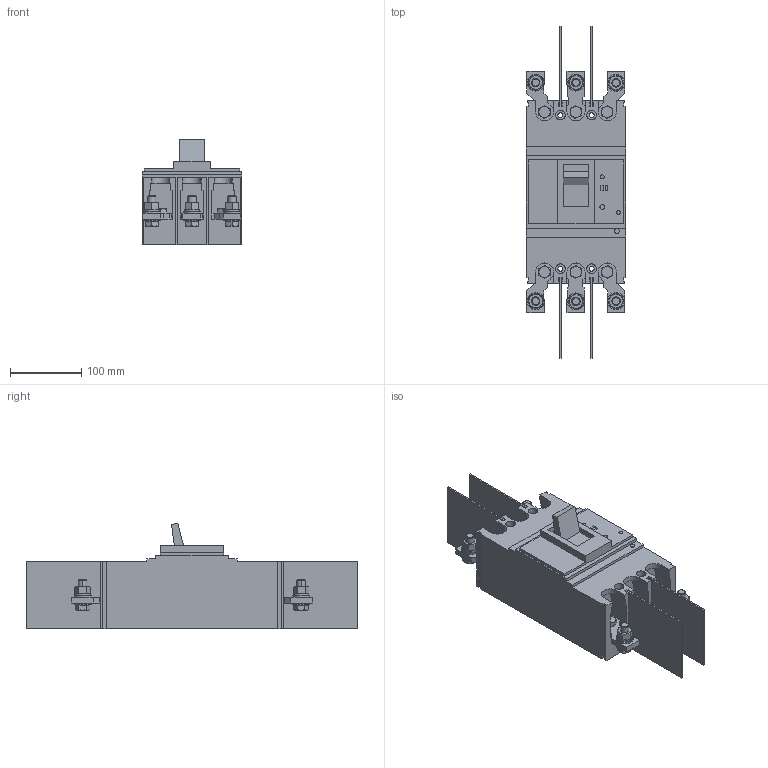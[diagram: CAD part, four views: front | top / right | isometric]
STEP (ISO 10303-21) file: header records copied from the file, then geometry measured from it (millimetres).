
FILE_DESCRIPTION (( 'STEP AP214' ), '1' );
FILE_NAME ('EW400RAGU-3P.STEP', '2020-05-20T07:56:58', ( '' ), ( '' ), 'SwSTEP 2.0', 'SolidWorks 2019', '' );
FILE_SCHEMA (( 'AUTOMOTIVE_DESIGN' ));
Length unit declared in the file: millimetre
Products named in the file (21): EW400EAG-3P_SWITCH; Terminal-2^EW400RAGU-3P; Terminal-3^EW400RAGU-3P; EW400EAG-3P_PLATE2; EW400EAG-3P_PLATE5; EW400EAG-3P_PLATE6; continuous thread hexagon head bolt_a_jis_JIS B 1180 Continuous thread hexagon head bolt A M12 x 35 --N; EW400EAG-3P_PLATE4; EW400EAG-3P_CASE; B-43A; Terminal-4^EW400RAGU-3P; hexagon nut_1_jis_JIS B 1181 Hexagon nut - Class 1 Finished M12 --N; EW400EAG-3P_PLATE3; spring lock washer_2_jis_JIS B 1251 No.2 12; continuous thread hexagon head bolt_a_jis_JIS B 1180 Continuous thread hexagon head bolt A M10 x 35 --N; Terminal-5^EW400RAGU-3P; EW400EAG-3P_PLATE-1; Terminal-1^EW400RAGU-3P; Terminal-6^EW400RAGU-3P; regular circular plain washer_jis_JIS B 1256 Regular circular 12; EW400RAGU-3P
Assembly tree (54 placements, depth 3):
  EW400RAGU-3P
    EW400EAG-3P_CASE
    Terminal-1^EW400RAGU-3P
      continuous thread hexagon head bolt_a_jis_JIS B 1180 Continuous thread hexagon head bolt A M12 x 35 --N
      regular circular plain washer_jis_JIS B 1256 Regular circular 12  x2
      continuous thread hexagon head bolt_a_jis_JIS B 1180 Continuous thread hexagon head bolt A M10 x 35 --N
      spring lock washer_2_jis_JIS B 1251 No.2 12
      hexagon nut_1_jis_JIS B 1181 Hexagon nut - Class 1 Finished M12 --N
      EW400EAG-3P_PLATE-1
    Terminal-2^EW400RAGU-3P
      continuous thread hexagon head bolt_a_jis_JIS B 1180 Continuous thread hexagon head bolt A M12 x 35 --N
      regular circular plain washer_jis_JIS B 1256 Regular circular 12  x2
      continuous thread hexagon head bolt_a_jis_JIS B 1180 Continuous thread hexagon head bolt A M10 x 35 --N
      hexagon nut_1_jis_JIS B 1181 Hexagon nut - Class 1 Finished M12 --N
      spring lock washer_2_jis_JIS B 1251 No.2 12
      EW400EAG-3P_PLATE2
    Terminal-3^EW400RAGU-3P
      continuous thread hexagon head bolt_a_jis_JIS B 1180 Continuous thread hexagon head bolt A M12 x 35 --N
      regular circular plain washer_jis_JIS B 1256 Regular circular 12  x2
      continuous thread hexagon head bolt_a_jis_JIS B 1180 Continuous thread hexagon head bolt A M10 x 35 --N
      spring lock washer_2_jis_JIS B 1251 No.2 12
      hexagon nut_1_jis_JIS B 1181 Hexagon nut - Class 1 Finished M12 --N
      EW400EAG-3P_PLATE3
    Terminal-4^EW400RAGU-3P
      regular circular plain washer_jis_JIS B 1256 Regular circular 12  x2
      continuous thread hexagon head bolt_a_jis_JIS B 1180 Continuous thread hexagon head bolt A M12 x 35 --N
      spring lock washer_2_jis_JIS B 1251 No.2 12
      hexagon nut_1_jis_JIS B 1181 Hexagon nut - Class 1 Finished M12 --N
      continuous thread hexagon head bolt_a_jis_JIS B 1180 Continuous thread hexagon head bolt A M10 x 35 --N
      EW400EAG-3P_PLATE4
    Terminal-5^EW400RAGU-3P
      continuous thread hexagon head bolt_a_jis_JIS B 1180 Continuous thread hexagon head bolt A M12 x 35 --N
      regular circular plain washer_jis_JIS B 1256 Regular circular 12  x2
      continuous thread hexagon head bolt_a_jis_JIS B 1180 Continuous thread hexagon head bolt A M10 x 35 --N
      spring lock washer_2_jis_JIS B 1251 No.2 12
      hexagon nut_1_jis_JIS B 1181 Hexagon nut - Class 1 Finished M12 --N
      EW400EAG-3P_PLATE5
    Terminal-6^EW400RAGU-3P
      regular circular plain washer_jis_JIS B 1256 Regular circular 12  x2
      continuous thread hexagon head bolt_a_jis_JIS B 1180 Continuous thread hexagon head bolt A M12 x 35 --N
      spring lock washer_2_jis_JIS B 1251 No.2 12
      hexagon nut_1_jis_JIS B 1181 Hexagon nut - Class 1 Finished M12 --N
      continuous thread hexagon head bolt_a_jis_JIS B 1180 Continuous thread hexagon head bolt A M10 x 35 --N
      EW400EAG-3P_PLATE6
    EW400EAG-3P_SWITCH
    B-43A  x4
Bounding box: 140 x 467 x 148.3 mm (x, y, z)
Volume: 3472158.8 mm3; surface area: 389515.8 mm2
Topology: 48 solids, 48 shells, 976 faces, 2280 edges, 1424 vertices
Faces by surface type: plane 586, cylinder 210, cone 156, torus 24
Entity records: 15406 total; most frequent: CARTESIAN_POINT 2745, DIRECTION 2474, ORIENTED_EDGE 2424, EDGE_CURVE 1212, VECTOR 928, LINE 928, VERTEX_POINT 792, AXIS2_PLACEMENT_3D 773
